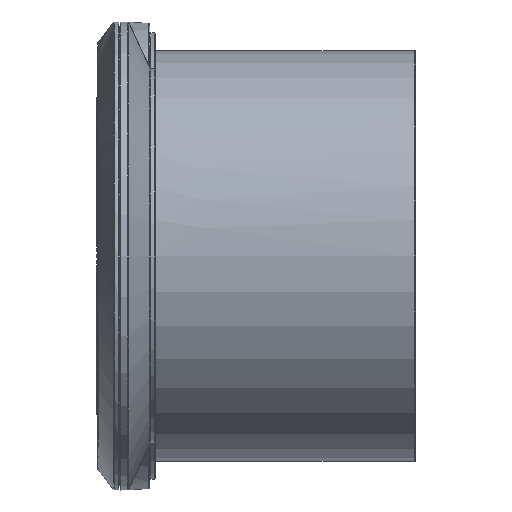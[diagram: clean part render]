
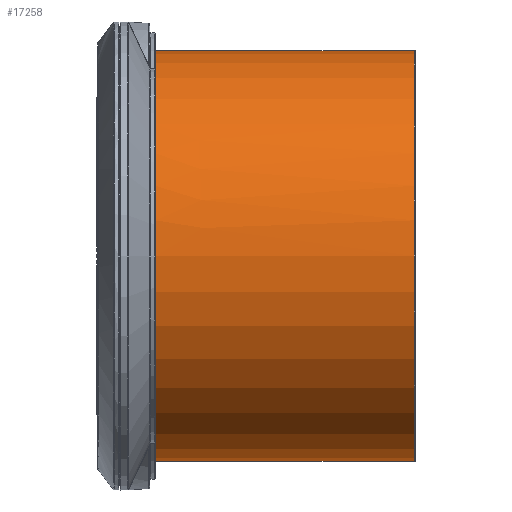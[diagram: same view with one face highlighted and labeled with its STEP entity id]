
A CAD part, left-side view. The second image highlights one B-rep face of the part: STEP entity #17258.
In plain terms, the highlighted cylindrical face has radius 39.5 mm (diameter 79 mm), a full revolution.
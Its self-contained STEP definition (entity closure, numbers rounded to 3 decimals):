
#748 = CARTESIAN_POINT ( 'NONE',  ( 0., -11.05, 0. ) ) ;
#1006 =( BOUNDED_CURVE ( )  B_SPLINE_CURVE ( 3, ( #3832, #10513, #17487, #21916 ),
 .UNSPECIFIED., .F., .T. ) 
 B_SPLINE_CURVE_WITH_KNOTS ( ( 4, 4 ),
 ( 4.712, 5.865 ),
 .UNSPECIFIED. ) 
 CURVE ( )  GEOMETRIC_REPRESENTATION_ITEM ( )  RATIONAL_B_SPLINE_CURVE ( ( 1., 0.892, 0.892, 1. ) ) 
 REPRESENTATION_ITEM ( '' )  );
#1920 = EDGE_CURVE ( 'NONE', #25262, #22617, #24669, .T. ) ;
#2029 = DIRECTION ( 'NONE',  ( 0., 0., -1. ) ) ;
#2331 = FACE_OUTER_BOUND ( 'NONE', #11969, .T. ) ;
#2348 = VERTEX_POINT ( 'NONE', #27221 ) ;
#2765 = EDGE_CURVE ( 'NONE', #26306, #2348, #5351, .T. ) ;
#2868 = CARTESIAN_POINT ( 'NONE',  ( -9.195, -18.432, 39.458 ) ) ;
#3152 = EDGE_LOOP ( 'NONE', ( #8606, #25039 ) ) ;
#3522 = CARTESIAN_POINT ( 'NONE',  ( -39.5, -20.5, 0. ) ) ;
#3656 = CARTESIAN_POINT ( 'NONE',  ( -10.901, -18.51, -37.966 ) ) ;
#3712 = ORIENTED_EDGE ( 'NONE', *, *, #1920, .T. ) ;
#3808 = EDGE_LOOP ( 'NONE', ( #24029 ) ) ;
#3832 = CARTESIAN_POINT ( 'NONE',  ( -39.5, -20.5, 0. ) ) ;
#4137 = CIRCLE ( 'NONE', #8394, 39.5 ) ;
#4256 = CARTESIAN_POINT ( 'NONE',  ( 16.054, -18.609, 36.091 ) ) ;
#4923 = DIRECTION ( 'NONE',  ( 0., 0., -1. ) ) ;
#4941 = CARTESIAN_POINT ( 'NONE',  ( 8.552, -18.479, 38.563 ) ) ;
#5072 = DIRECTION ( 'NONE',  ( 0., 1., 0. ) ) ;
#5351 =( BOUNDED_CURVE ( )  B_SPLINE_CURVE ( 3, ( #4941, #18598, #2868, #27191 ),
 .UNSPECIFIED., .F., .T. ) 
 B_SPLINE_CURVE_WITH_KNOTS ( ( 4, 4 ),
 ( 6.065, 6.736 ),
 .UNSPECIFIED. ) 
 CURVE ( )  GEOMETRIC_REPRESENTATION_ITEM ( )  RATIONAL_B_SPLINE_CURVE ( ( 1., 0.963, 0.963, 1. ) ) 
 REPRESENTATION_ITEM ( '' )  );
#5363 = EDGE_CURVE ( 'NONE', #26203, #8636, #20510, .T. ) ;
#5968 = AXIS2_PLACEMENT_3D ( 'NONE', #19838, #13181, #19695 ) ;
#6018 = CARTESIAN_POINT ( 'NONE',  ( 16.054, -18.609, 36.091 ) ) ;
#6495 = FACE_OUTER_BOUND ( 'NONE', #3152, .T. ) ;
#6911 = CIRCLE ( 'NONE', #5968, 39.5 ) ;
#7727 = ORIENTED_EDGE ( 'NONE', *, *, #26172, .T. ) ;
#8394 = AXIS2_PLACEMENT_3D ( 'NONE', #748, #5072, #4923 ) ;
#8606 = ORIENTED_EDGE ( 'NONE', *, *, #2765, .F. ) ;
#8636 = VERTEX_POINT ( 'NONE', #16105 ) ;
#9850 = CARTESIAN_POINT ( 'NONE',  ( -32.619, -19.333, 22.276 ) ) ;
#10496 = CARTESIAN_POINT ( 'NONE',  ( -37.136, -19.679, 15.662 ) ) ;
#10513 = CARTESIAN_POINT ( 'NONE',  ( -39.5, -19.657, -16.076 ) ) ;
#11119 = CARTESIAN_POINT ( 'NONE',  ( -10.901, -18.51, -37.966 ) ) ;
#11239 = EDGE_CURVE ( 'NONE', #14410, #14410, #4137, .T. ) ;
#11385 = CARTESIAN_POINT ( 'NONE',  ( 0., -58.5, 0. ) ) ;
#11665 = ORIENTED_EDGE ( 'NONE', *, *, #20970, .F. ) ;
#11969 = EDGE_LOOP ( 'NONE', ( #20690, #11665, #12208, #3712 ) ) ;
#12208 = ORIENTED_EDGE ( 'NONE', *, *, #1920, .F. ) ;
#12326 = ORIENTED_EDGE ( 'NONE', *, *, #26172, .F. ) ;
#13181 = DIRECTION ( 'NONE',  ( 0., 1., 0. ) ) ;
#13341 = CYLINDRICAL_SURFACE ( 'NONE', #17453, 39.5 ) ;
#14068 = VERTEX_POINT ( 'NONE', #4256 ) ;
#14074 = EDGE_CURVE ( 'NONE', #25517, #25517, #6911, .T. ) ;
#14410 = VERTEX_POINT ( 'NONE', #27736 ) ;
#14883 = ORIENTED_EDGE ( 'NONE', *, *, #11239, .F. ) ;
#16105 = CARTESIAN_POINT ( 'NONE',  ( 39.5, -20.5, 0. ) ) ;
#16740 = VERTEX_POINT ( 'NONE', #28922 ) ;
#16741 = CARTESIAN_POINT ( 'NONE',  ( -39.5, -20.08, 8.009 ) ) ;
#17258 = ADVANCED_FACE ( 'NONE', ( #22650, #26815, #6495, #24587, #2331 ), #13341, .T. ) ;
#17453 = AXIS2_PLACEMENT_3D ( 'NONE', #11385, #22361, #2029 ) ;
#17487 = CARTESIAN_POINT ( 'NONE',  ( -30.742, -18.951, -29.557 ) ) ;
#18249 = CARTESIAN_POINT ( 'NONE',  ( 39.5, -18.999, -28.638 ) ) ;
#18598 = CARTESIAN_POINT ( 'NONE',  ( -0.246, -18.377, 40.514 ) ) ;
#19064 =( BOUNDED_CURVE ( )  B_SPLINE_CURVE ( 3, ( #28852, #28419, #22026, #6018 ),
 .UNSPECIFIED., .F., .T. ) 
 B_SPLINE_CURVE_WITH_KNOTS ( ( 4, 4 ),
 ( 4.712, 5.865 ),
 .UNSPECIFIED. ) 
 CURVE ( )  GEOMETRIC_REPRESENTATION_ITEM ( )  RATIONAL_B_SPLINE_CURVE ( ( 1., 0.892, 0.892, 1. ) ) 
 REPRESENTATION_ITEM ( '' )  );
#19695 = DIRECTION ( 'NONE',  ( 0., 0., -1. ) ) ;
#19838 = CARTESIAN_POINT ( 'NONE',  ( 0., -60.85, 0. ) ) ;
#20318 = CARTESIAN_POINT ( 'NONE',  ( 16.625, -18.096, -45.869 ) ) ;
#20510 =( BOUNDED_CURVE ( )  B_SPLINE_CURVE ( 3, ( #11119, #20318, #18249, #24906 ),
 .UNSPECIFIED., .F., .T. ) 
 B_SPLINE_CURVE_WITH_KNOTS ( ( 4, 4 ),
 ( 6.004, 7.854 ),
 .UNSPECIFIED. ) 
 CURVE ( )  GEOMETRIC_REPRESENTATION_ITEM ( )  RATIONAL_B_SPLINE_CURVE ( ( 1., 0.734, 0.734, 1. ) ) 
 REPRESENTATION_ITEM ( '' )  );
#20690 = ORIENTED_EDGE ( 'NONE', *, *, #20970, .T. ) ;
#20970 = EDGE_CURVE ( 'NONE', #22617, #16740, #1006, .T. ) ;
#21916 = CARTESIAN_POINT ( 'NONE',  ( -16.054, -18.609, -36.091 ) ) ;
#22026 = CARTESIAN_POINT ( 'NONE',  ( 30.742, -18.951, 29.557 ) ) ;
#22361 = DIRECTION ( 'NONE',  ( 0., 1., 0. ) ) ;
#22617 = VERTEX_POINT ( 'NONE', #28036 ) ;
#22650 = FACE_OUTER_BOUND ( 'NONE', #3808, .T. ) ;
#22904 = CARTESIAN_POINT ( 'NONE',  ( 8.552, -18.479, 38.563 ) ) ;
#23054 = ORIENTED_EDGE ( 'NONE', *, *, #5363, .F. ) ;
#24029 = ORIENTED_EDGE ( 'NONE', *, *, #14074, .T. ) ;
#24484 = EDGE_LOOP ( 'NONE', ( #14883 ) ) ;
#24587 = FACE_OUTER_BOUND ( 'NONE', #26732, .T. ) ;
#24669 =( BOUNDED_CURVE ( )  B_SPLINE_CURVE ( 3, ( #25769, #10496, #16741, #3522 ),
 .UNSPECIFIED., .F., .T. ) 
 B_SPLINE_CURVE_WITH_KNOTS ( ( 4, 4 ),
 ( 0.972, 1.571 ),
 .UNSPECIFIED. ) 
 CURVE ( )  GEOMETRIC_REPRESENTATION_ITEM ( )  RATIONAL_B_SPLINE_CURVE ( ( 1., 0.97, 0.97, 1. ) ) 
 REPRESENTATION_ITEM ( '' )  );
#24906 = CARTESIAN_POINT ( 'NONE',  ( 39.5, -20.5, 0. ) ) ;
#25039 = ORIENTED_EDGE ( 'NONE', *, *, #2765, .T. ) ;
#25262 = VERTEX_POINT ( 'NONE', #9850 ) ;
#25517 = VERTEX_POINT ( 'NONE', #27890 ) ;
#25769 = CARTESIAN_POINT ( 'NONE',  ( -32.619, -19.333, 22.276 ) ) ;
#26172 = EDGE_CURVE ( 'NONE', #8636, #14068, #19064, .T. ) ;
#26203 = VERTEX_POINT ( 'NONE', #3656 ) ;
#26306 = VERTEX_POINT ( 'NONE', #22904 ) ;
#26732 = EDGE_LOOP ( 'NONE', ( #23054, #26985, #7727, #12326 ) ) ;
#26815 = FACE_OUTER_BOUND ( 'NONE', #24484, .T. ) ;
#26985 = ORIENTED_EDGE ( 'NONE', *, *, #5363, .T. ) ;
#27191 = CARTESIAN_POINT ( 'NONE',  ( -17.297, -18.639, 35.512 ) ) ;
#27221 = CARTESIAN_POINT ( 'NONE',  ( -17.297, -18.639, 35.512 ) ) ;
#27736 = CARTESIAN_POINT ( 'NONE',  ( 0., -11.05, -39.5 ) ) ;
#27890 = CARTESIAN_POINT ( 'NONE',  ( 0., -60.85, -39.5 ) ) ;
#28036 = CARTESIAN_POINT ( 'NONE',  ( -39.5, -20.5, 0. ) ) ;
#28419 = CARTESIAN_POINT ( 'NONE',  ( 39.5, -19.657, 16.076 ) ) ;
#28852 = CARTESIAN_POINT ( 'NONE',  ( 39.5, -20.5, 0. ) ) ;
#28922 = CARTESIAN_POINT ( 'NONE',  ( -16.054, -18.609, -36.091 ) ) ;
